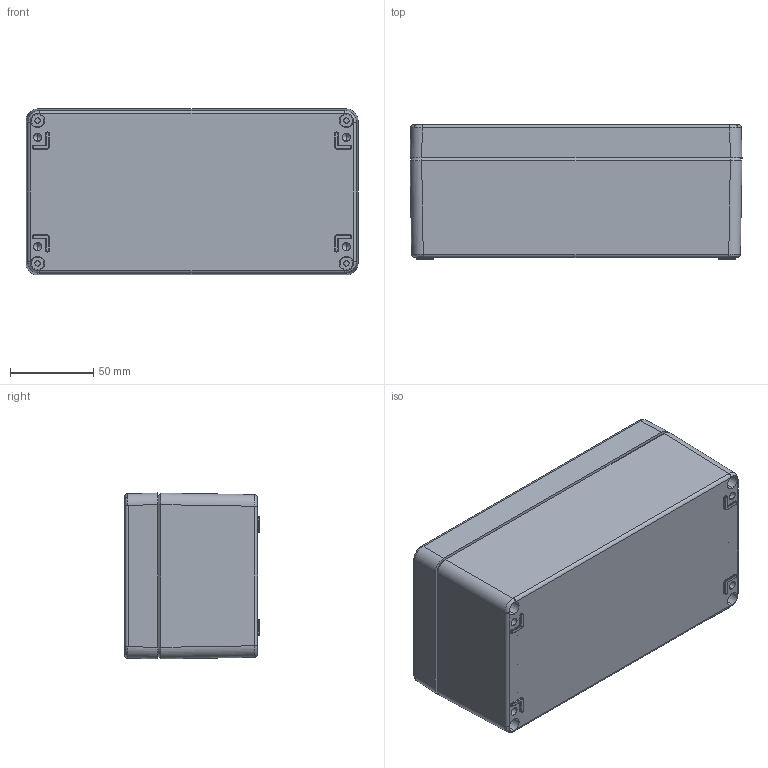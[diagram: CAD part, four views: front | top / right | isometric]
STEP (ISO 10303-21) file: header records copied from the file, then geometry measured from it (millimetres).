
FILE_DESCRIPTION (( 'STEP AP203' ), '1' );
FILE_NAME ('ALU ASSY 20010080.STEP', '2024-08-28T10:58:07', ( '' ), ( '' ), 'SwSTEP 2.0', 'SolidWorks 2018', '' );
FILE_SCHEMA (( 'CONFIG_CONTROL_DESIGN' ));
Length unit declared in the file: millimetre
Products named in the file (6): ALU ASSY 20010080; 02157_Standard.STEP; 93133_Standard.STEP; 01157_Standard.STEP; 82003_Standard.STEP; 01102008.STEP
Assembly tree (8 placements, depth 3):
  ALU ASSY 20010080
    01102008.STEP
      02157_Standard.STEP
      93133_Standard.STEP  x4
      82003_Standard.STEP
      01157_Standard.STEP
Bounding box: 200 x 81 x 100 mm (x, y, z)
Surface area: 180551 mm2
Topology: 5 solids, 7 shells, 862 faces, 2065 edges, 1215 vertices
Faces by surface type: cylinder 266, bspline 212, plane 200, cone 116, torus 68
Entity records: 35574 total; most frequent: CARTESIAN_POINT 18337, ORIENTED_EDGE 3612, DIRECTION 3198, EDGE_CURVE 1842, AXIS2_PLACEMENT_3D 1246, VERTEX_POINT 1089, EDGE_LOOP 837, FACE_OUTER_BOUND 781
